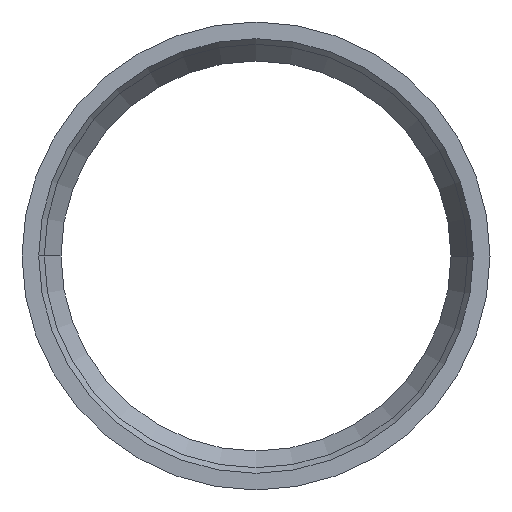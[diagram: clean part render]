
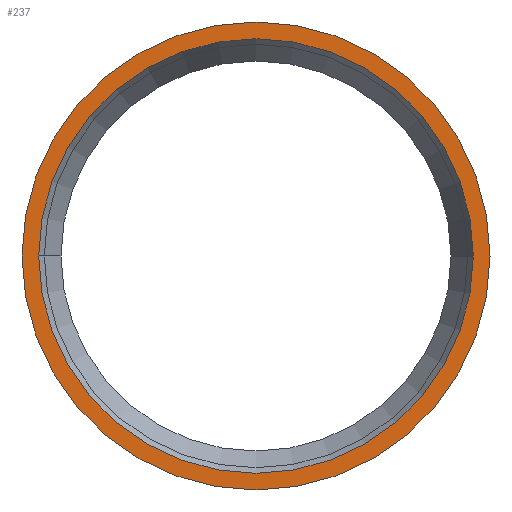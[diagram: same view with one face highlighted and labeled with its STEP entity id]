
A CAD part, left-side view. The second image highlights one B-rep face of the part: STEP entity #237.
In plain terms, the highlighted planar face has unit normal (-1, 0, 0).
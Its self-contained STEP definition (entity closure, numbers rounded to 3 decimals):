
#5 = DIRECTION ( 'NONE',  ( 1., 0., 0. ) ) ;
#12 = CARTESIAN_POINT ( 'NONE',  ( -1547.25, 0., 0. ) ) ;
#27 = EDGE_CURVE ( 'NONE', #481, #474, #162, .T. ) ;
#50 = DIRECTION ( 'NONE',  ( 0., 0., -1. ) ) ;
#62 = DIRECTION ( 'NONE',  ( 1., 0., 0. ) ) ;
#73 = CARTESIAN_POINT ( 'NONE',  ( -1547.25, 0., 19.5 ) ) ;
#95 = CARTESIAN_POINT ( 'NONE',  ( -1547.25, 0., 0. ) ) ;
#142 = CARTESIAN_POINT ( 'NONE',  ( -1547.25, 0., -19.5 ) ) ;
#144 = DIRECTION ( 'NONE',  ( 1., 0., 0. ) ) ;
#161 = AXIS2_PLACEMENT_3D ( 'NONE', #246, #5, #278 ) ;
#162 = CIRCLE ( 'NONE', #361, 21. ) ;
#169 = EDGE_CURVE ( 'NONE', #474, #481, #390, .T. ) ;
#189 = EDGE_CURVE ( 'NONE', #204, #426, #402, .T. ) ;
#204 = VERTEX_POINT ( 'NONE', #142 ) ;
#205 = AXIS2_PLACEMENT_3D ( 'NONE', #210, #458, #248 ) ;
#207 = ORIENTED_EDGE ( 'NONE', *, *, #27, .F. ) ;
#210 = CARTESIAN_POINT ( 'NONE',  ( -1547.25, 0., 0. ) ) ;
#215 = DIRECTION ( 'NONE',  ( 1., 0., 0. ) ) ;
#227 = CARTESIAN_POINT ( 'NONE',  ( -1547.25, 0., 21. ) ) ;
#237 = ADVANCED_FACE ( 'NONE', ( #473, #381 ), #249, .F. ) ;
#246 = CARTESIAN_POINT ( 'NONE',  ( -1547.25, 0., 0. ) ) ;
#248 = DIRECTION ( 'NONE',  ( 0., 0., -1. ) ) ;
#249 = PLANE ( 'NONE',  #353 ) ;
#261 = EDGE_CURVE ( 'NONE', #426, #204, #372, .T. ) ;
#263 = ORIENTED_EDGE ( 'NONE', *, *, #169, .F. ) ;
#278 = DIRECTION ( 'NONE',  ( 0., 0., -1. ) ) ;
#353 = AXIS2_PLACEMENT_3D ( 'NONE', #12, #144, #393 ) ;
#361 = AXIS2_PLACEMENT_3D ( 'NONE', #95, #62, #50 ) ;
#372 = CIRCLE ( 'NONE', #375, 19.5 ) ;
#375 = AXIS2_PLACEMENT_3D ( 'NONE', #427, #215, #464 ) ;
#377 = ORIENTED_EDGE ( 'NONE', *, *, #261, .T. ) ;
#381 = FACE_OUTER_BOUND ( 'NONE', #385, .T. ) ;
#385 = EDGE_LOOP ( 'NONE', ( #263, #207 ) ) ;
#390 = CIRCLE ( 'NONE', #161, 21. ) ;
#393 = DIRECTION ( 'NONE',  ( 0., 0., -1. ) ) ;
#402 = CIRCLE ( 'NONE', #205, 19.5 ) ;
#423 = EDGE_LOOP ( 'NONE', ( #377, #434 ) ) ;
#426 = VERTEX_POINT ( 'NONE', #73 ) ;
#427 = CARTESIAN_POINT ( 'NONE',  ( -1547.25, 0., 0. ) ) ;
#434 = ORIENTED_EDGE ( 'NONE', *, *, #189, .T. ) ;
#458 = DIRECTION ( 'NONE',  ( 1., 0., 0. ) ) ;
#464 = DIRECTION ( 'NONE',  ( 0., 0., -1. ) ) ;
#473 = FACE_BOUND ( 'NONE', #423, .T. ) ;
#474 = VERTEX_POINT ( 'NONE', #227 ) ;
#475 = CARTESIAN_POINT ( 'NONE',  ( -1547.25, 0., -21. ) ) ;
#481 = VERTEX_POINT ( 'NONE', #475 ) ;
